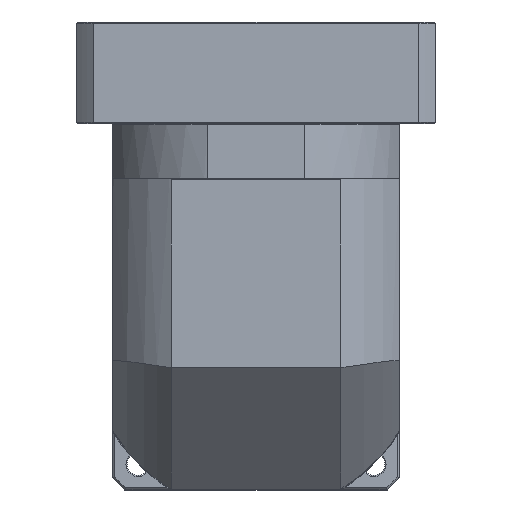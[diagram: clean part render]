
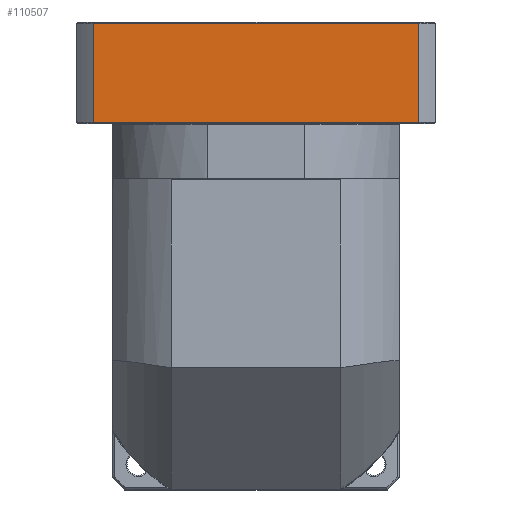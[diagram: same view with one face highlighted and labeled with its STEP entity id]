
A CAD part, top view. The second image highlights one B-rep face of the part: STEP entity #110507.
In plain terms, the highlighted planar face has unit normal (0, 0, 1).
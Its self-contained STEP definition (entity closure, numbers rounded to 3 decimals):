
#6387 = VECTOR ( 'NONE', #93557, 1000. ) ;
#9881 = ORIENTED_EDGE ( 'NONE', *, *, #46040, .F. ) ;
#13819 = EDGE_CURVE ( 'NONE', #72805, #40394, #78672, .T. ) ;
#18510 = CARTESIAN_POINT ( 'NONE',  ( 2.082, 193.405, 108.978 ) ) ;
#21714 = CARTESIAN_POINT ( 'NONE',  ( -6.426, 242.405, 108.978 ) ) ;
#23975 = ORIENTED_EDGE ( 'NONE', *, *, #33975, .F. ) ;
#29744 = LINE ( 'NONE', #18510, #6387 ) ;
#32368 = CARTESIAN_POINT ( 'NONE',  ( -6.426, 193.405, 108.978 ) ) ;
#33724 = EDGE_CURVE ( 'NONE', #40394, #46320, #96965, .T. ) ;
#33975 = EDGE_CURVE ( 'NONE', #46320, #137931, #43026, .T. ) ;
#35673 = DIRECTION ( 'NONE',  ( 0., 1., 0. ) ) ;
#40394 = VERTEX_POINT ( 'NONE', #94493 ) ;
#43026 = LINE ( 'NONE', #67605, #46398 ) ;
#46040 = EDGE_CURVE ( 'NONE', #137931, #72805, #29744, .T. ) ;
#46320 = VERTEX_POINT ( 'NONE', #21714 ) ;
#46398 = VECTOR ( 'NONE', #50683, 1000. ) ;
#46943 = ORIENTED_EDGE ( 'NONE', *, *, #13819, .F. ) ;
#50683 = DIRECTION ( 'NONE',  ( 0., -1., 0. ) ) ;
#60272 = DIRECTION ( 'NONE',  ( 0., 0., -1. ) ) ;
#67605 = CARTESIAN_POINT ( 'NONE',  ( -6.426, -149.9, 108.978 ) ) ;
#70565 = PLANE ( 'NONE',  #92791 ) ;
#72805 = VERTEX_POINT ( 'NONE', #121474 ) ;
#74367 = FACE_OUTER_BOUND ( 'NONE', #87614, .T. ) ;
#75988 = ORIENTED_EDGE ( 'NONE', *, *, #33724, .F. ) ;
#78672 = LINE ( 'NONE', #119788, #114082 ) ;
#87614 = EDGE_LOOP ( 'NONE', ( #46943, #9881, #23975, #75988 ) ) ;
#91196 = DIRECTION ( 'NONE',  ( 0., -1., 0. ) ) ;
#92791 = AXIS2_PLACEMENT_3D ( 'NONE', #101592, #60272, #91196 ) ;
#93557 = DIRECTION ( 'NONE',  ( -1., 0., 0. ) ) ;
#94493 = CARTESIAN_POINT ( 'NONE',  ( -167.411, 242.405, 108.978 ) ) ;
#96965 = LINE ( 'NONE', #118914, #137176 ) ;
#101592 = CARTESIAN_POINT ( 'NONE',  ( 2.082, 242.905, 108.978 ) ) ;
#110507 = ADVANCED_FACE ( 'NONE', ( #74367 ), #70565, .F. ) ;
#114082 = VECTOR ( 'NONE', #35673, 1000. ) ;
#118914 = CARTESIAN_POINT ( 'NONE',  ( -15.918, 242.405, 108.978 ) ) ;
#119788 = CARTESIAN_POINT ( 'NONE',  ( -167.411, -149.9, 108.978 ) ) ;
#121474 = CARTESIAN_POINT ( 'NONE',  ( -167.411, 193.405, 108.978 ) ) ;
#130527 = DIRECTION ( 'NONE',  ( 1., 0., 0. ) ) ;
#137176 = VECTOR ( 'NONE', #130527, 1000. ) ;
#137931 = VERTEX_POINT ( 'NONE', #32368 ) ;
